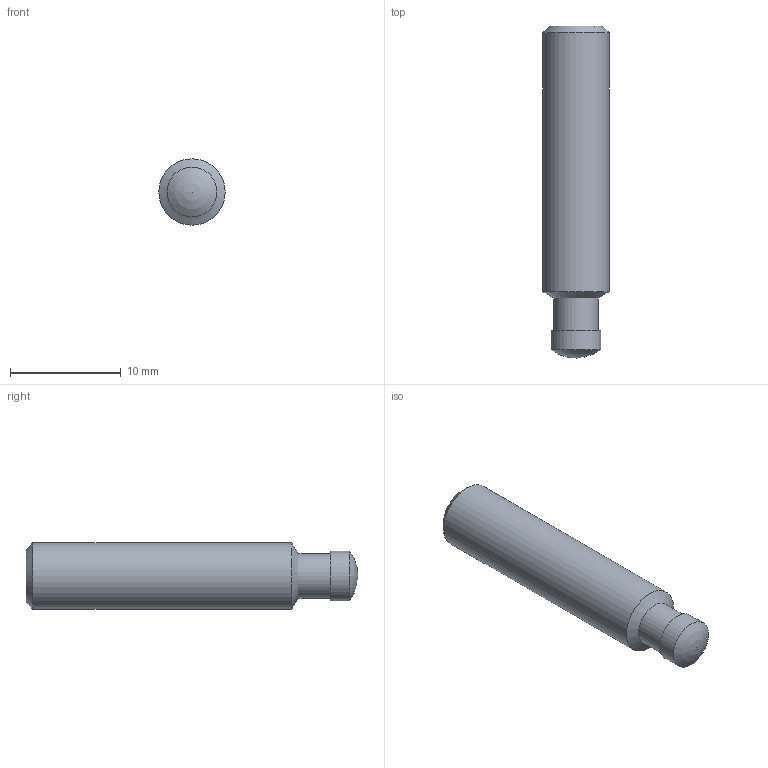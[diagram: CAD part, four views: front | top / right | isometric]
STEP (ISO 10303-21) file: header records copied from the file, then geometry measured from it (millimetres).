
FILE_DESCRIPTION( ( 'STEP AP203' ), '1' );
FILE_NAME( 'C:/Temp/Ganter_Step_05_03_2020/data/3_2/din6332/din6332/Grub screw DIN 6332-M6-30-SKN.stp', '2020-03-13T05:16:26', ( 'License CC BY-ND 4.0' ), ( 'CADENAS' ), ' ', 'PARTsolutions', ' ' );
FILE_SCHEMA( ( 'CONFIG_CONTROL_DESIGN' ) );
Length unit declared in the file: millimetre
Products named in the file (1): _Grub screw DIN 6332-M6-30-SKN
Bounding box: 6 x 30 x 6 mm (x, y, z)
Volume: 741.9 mm3; surface area: 594.8 mm2
Topology: 1 solids, 1 shells, 15 faces, 33 edges, 21 vertices
Faces by surface type: plane 9, cylinder 3, cone 2, sphere 1
Full cylindrical faces by diameter (mm): 4 x1, 4.5 x1, 6 x1
Entity records: 410 total; most frequent: DIRECTION 64, CARTESIAN_POINT 61, ORIENTED_EDGE 50, EDGE_CURVE 25, AXIS2_PLACEMENT_3D 23, EDGE_LOOP 22, VERTEX_POINT 20, FACE_OUTER_BOUND 18
